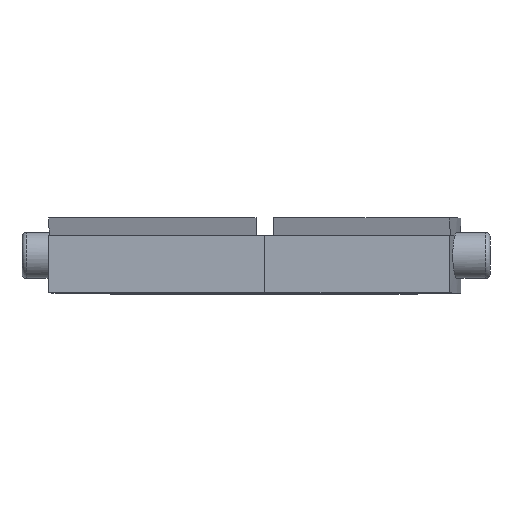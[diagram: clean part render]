
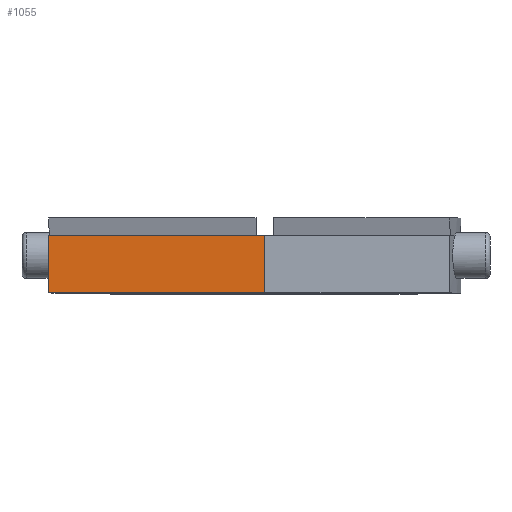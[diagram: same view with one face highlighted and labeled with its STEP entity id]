
A CAD part, top view. The second image highlights one B-rep face of the part: STEP entity #1055.
In plain terms, the highlighted planar face has unit normal (0, 0, 1).
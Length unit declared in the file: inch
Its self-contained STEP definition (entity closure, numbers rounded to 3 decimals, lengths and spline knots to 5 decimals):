
#187=FACE_OUTER_BOUND('',#255,.T.);
#255=EDGE_LOOP('',(#940,#941,#942,#943));
#320=LINE('',#2127,#400);
#326=LINE('',#2250,#406);
#331=LINE('',#2283,#411);
#334=LINE('',#2288,#414);
#400=VECTOR('',#1350,0.3937);
#406=VECTOR('',#1374,0.3937);
#411=VECTOR('',#1389,0.3937);
#414=VECTOR('',#1396,0.3937);
#492=VERTEX_POINT('',#2125);
#493=VERTEX_POINT('',#2126);
#507=VERTEX_POINT('',#2242);
#508=VERTEX_POINT('',#2249);
#627=EDGE_CURVE('',#492,#493,#320,.T.);
#645=EDGE_CURVE('',#507,#508,#326,.T.);
#655=EDGE_CURVE('',#508,#492,#331,.T.);
#658=EDGE_CURVE('',#507,#493,#334,.T.);
#940=ORIENTED_EDGE('',*,*,#658,.T.);
#941=ORIENTED_EDGE('',*,*,#627,.F.);
#942=ORIENTED_EDGE('',*,*,#655,.F.);
#943=ORIENTED_EDGE('',*,*,#645,.F.);
#995=PLANE('',#1160);
#1055=ADVANCED_FACE('',(#187),#995,.T.);
#1160=AXIS2_PLACEMENT_3D('',#2289,#1397,#1398);
#1350=DIRECTION('',(0.,-1.,0.));
#1374=DIRECTION('',(0.,1.,0.));
#1389=DIRECTION('',(1.,0.,0.));
#1396=DIRECTION('',(1.,0.,0.));
#1397=DIRECTION('center_axis',(0.,0.,1.));
#1398=DIRECTION('ref_axis',(1.,0.,0.));
#2125=CARTESIAN_POINT('',(0.,0.65,8.89625));
#2126=CARTESIAN_POINT('',(0.,0.,8.89625));
#2127=CARTESIAN_POINT('',(0.,0.65,8.89625));
#2242=CARTESIAN_POINT('',(-2.44734,0.,8.89625));
#2249=CARTESIAN_POINT('',(-2.44734,0.65,8.89625));
#2250=CARTESIAN_POINT('',(-2.44734,0.,8.89625));
#2283=CARTESIAN_POINT('',(-3.20129,0.65,8.89625));
#2288=CARTESIAN_POINT('',(-3.20129,0.,8.89625));
#2289=CARTESIAN_POINT('Origin',(-2.44734,0.,8.89625));
